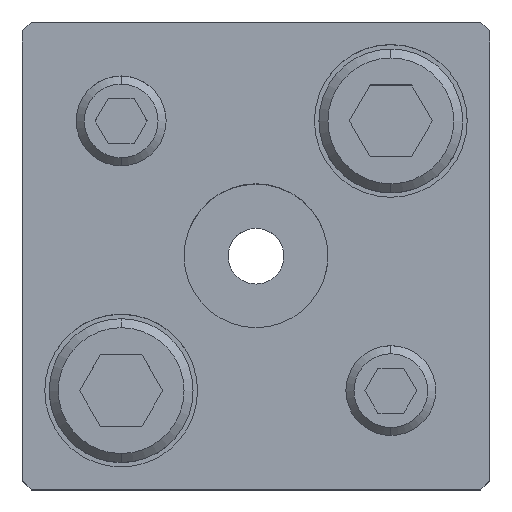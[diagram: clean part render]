
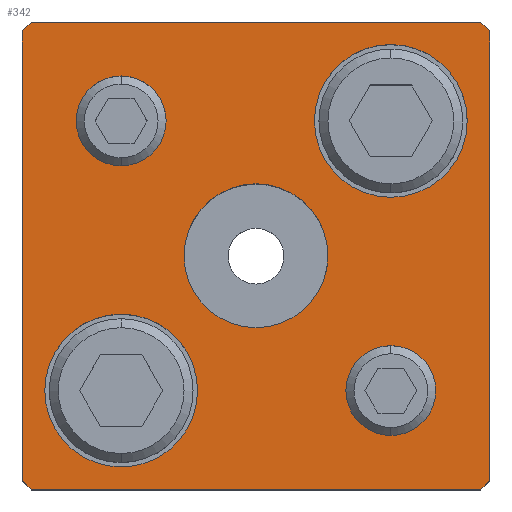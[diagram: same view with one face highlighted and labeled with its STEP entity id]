
A CAD part, top view. The second image highlights one B-rep face of the part: STEP entity #342.
In plain terms, the highlighted planar face has unit normal (0, 0, 1).
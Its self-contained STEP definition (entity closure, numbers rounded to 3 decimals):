
#167=PLANE('',#2883);
#246=FACE_BOUND('',#713,.T.);
#247=FACE_BOUND('',#714,.T.);
#248=FACE_BOUND('',#715,.T.);
#249=FACE_BOUND('',#716,.T.);
#250=FACE_BOUND('',#717,.T.);
#251=FACE_BOUND('',#718,.T.);
#342=ADVANCED_FACE('',(#246,#247,#248,#249,#250,#251),#167,.T.);
#713=EDGE_LOOP('',(#1569,#1570,#1571,#1572,#1573,#1574,#1575,#1576));
#714=EDGE_LOOP('',(#1577,#1578));
#715=EDGE_LOOP('',(#1579,#1580));
#716=EDGE_LOOP('',(#1581,#1582));
#717=EDGE_LOOP('',(#1583,#1584));
#718=EDGE_LOOP('',(#1585,#1586));
#898=LINE('',#4227,#1118);
#899=LINE('',#4230,#1119);
#900=LINE('',#4232,#1120);
#901=LINE('',#4234,#1121);
#902=LINE('',#4236,#1122);
#903=LINE('',#4238,#1123);
#904=LINE('',#4240,#1124);
#905=LINE('',#4242,#1125);
#1118=VECTOR('',#3401,1.);
#1119=VECTOR('',#3402,1.);
#1120=VECTOR('',#3403,1.);
#1121=VECTOR('',#3404,1.);
#1122=VECTOR('',#3405,1.);
#1123=VECTOR('',#3406,1.);
#1124=VECTOR('',#3407,1.);
#1125=VECTOR('',#3408,1.);
#1569=ORIENTED_EDGE('',*,*,#2390,.T.);
#1570=ORIENTED_EDGE('',*,*,#2391,.T.);
#1571=ORIENTED_EDGE('',*,*,#2392,.T.);
#1572=ORIENTED_EDGE('',*,*,#2393,.T.);
#1573=ORIENTED_EDGE('',*,*,#2394,.T.);
#1574=ORIENTED_EDGE('',*,*,#2395,.T.);
#1575=ORIENTED_EDGE('',*,*,#2396,.T.);
#1576=ORIENTED_EDGE('',*,*,#2397,.T.);
#1577=ORIENTED_EDGE('',*,*,#2398,.F.);
#1578=ORIENTED_EDGE('',*,*,#2399,.F.);
#1579=ORIENTED_EDGE('',*,*,#2400,.F.);
#1580=ORIENTED_EDGE('',*,*,#2401,.F.);
#1581=ORIENTED_EDGE('',*,*,#2376,.F.);
#1582=ORIENTED_EDGE('',*,*,#2372,.F.);
#1583=ORIENTED_EDGE('',*,*,#2370,.F.);
#1584=ORIENTED_EDGE('',*,*,#2366,.F.);
#1585=ORIENTED_EDGE('',*,*,#2402,.T.);
#1586=ORIENTED_EDGE('',*,*,#2403,.T.);
#2083=VERTEX_POINT('',#4178);
#2084=VERTEX_POINT('',#4179);
#2087=VERTEX_POINT('',#4191);
#2088=VERTEX_POINT('',#4192);
#2099=VERTEX_POINT('',#4228);
#2100=VERTEX_POINT('',#4229);
#2101=VERTEX_POINT('',#4231);
#2102=VERTEX_POINT('',#4233);
#2103=VERTEX_POINT('',#4235);
#2104=VERTEX_POINT('',#4237);
#2105=VERTEX_POINT('',#4239);
#2106=VERTEX_POINT('',#4241);
#2107=VERTEX_POINT('',#4244);
#2108=VERTEX_POINT('',#4245);
#2109=VERTEX_POINT('',#4248);
#2110=VERTEX_POINT('',#4249);
#2111=VERTEX_POINT('',#4252);
#2112=VERTEX_POINT('',#4253);
#2366=EDGE_CURVE('',#2083,#2084,#2655,.T.);
#2370=EDGE_CURVE('',#2084,#2083,#2657,.T.);
#2372=EDGE_CURVE('',#2087,#2088,#2659,.T.);
#2376=EDGE_CURVE('',#2088,#2087,#2661,.T.);
#2390=EDGE_CURVE('',#2099,#2100,#898,.T.);
#2391=EDGE_CURVE('',#2100,#2101,#899,.T.);
#2392=EDGE_CURVE('',#2101,#2102,#900,.T.);
#2393=EDGE_CURVE('',#2102,#2103,#901,.T.);
#2394=EDGE_CURVE('',#2103,#2104,#902,.T.);
#2395=EDGE_CURVE('',#2104,#2105,#903,.T.);
#2396=EDGE_CURVE('',#2105,#2106,#904,.T.);
#2397=EDGE_CURVE('',#2106,#2099,#905,.T.);
#2398=EDGE_CURVE('',#2107,#2108,#2671,.T.);
#2399=EDGE_CURVE('',#2108,#2107,#2672,.T.);
#2400=EDGE_CURVE('',#2109,#2110,#2673,.T.);
#2401=EDGE_CURVE('',#2110,#2109,#2674,.T.);
#2402=EDGE_CURVE('',#2111,#2112,#2675,.T.);
#2403=EDGE_CURVE('',#2112,#2111,#2676,.T.);
#2655=CIRCLE('',#2851,5.);
#2657=CIRCLE('',#2854,5.);
#2659=CIRCLE('',#2858,5.);
#2661=CIRCLE('',#2861,5.);
#2671=CIRCLE('',#2877,8.5);
#2672=CIRCLE('',#2878,8.5);
#2673=CIRCLE('',#2879,8.5);
#2674=CIRCLE('',#2880,8.5);
#2675=CIRCLE('',#2881,8.);
#2676=CIRCLE('',#2882,8.);
#2851=AXIS2_PLACEMENT_3D('',#4177,#3341,#3342);
#2854=AXIS2_PLACEMENT_3D('',#4186,#3349,#3350);
#2858=AXIS2_PLACEMENT_3D('',#4190,#3357,#3358);
#2861=AXIS2_PLACEMENT_3D('',#4199,#3365,#3366);
#2877=AXIS2_PLACEMENT_3D('',#4243,#3409,#3410);
#2878=AXIS2_PLACEMENT_3D('',#4246,#3411,#3412);
#2879=AXIS2_PLACEMENT_3D('',#4247,#3413,#3414);
#2880=AXIS2_PLACEMENT_3D('',#4250,#3415,#3416);
#2881=AXIS2_PLACEMENT_3D('',#4251,#3417,#3418);
#2882=AXIS2_PLACEMENT_3D('',#4254,#3419,#3420);
#2883=AXIS2_PLACEMENT_3D('',#4255,#3421,#3422);
#3341=DIRECTION('',(0.,0.,1.));
#3342=DIRECTION('',(-1.,0.,0.));
#3349=DIRECTION('',(0.,0.,1.));
#3350=DIRECTION('',(1.,0.,0.));
#3357=DIRECTION('',(0.,0.,1.));
#3358=DIRECTION('',(-1.,0.,0.));
#3365=DIRECTION('',(0.,0.,1.));
#3366=DIRECTION('',(1.,0.,0.));
#3401=DIRECTION('',(0.707,0.707,0.));
#3402=DIRECTION('',(0.,1.,0.));
#3403=DIRECTION('',(-0.707,0.707,0.));
#3404=DIRECTION('',(-1.,0.,0.));
#3405=DIRECTION('',(-0.707,-0.707,0.));
#3406=DIRECTION('',(0.,-1.,0.));
#3407=DIRECTION('',(0.707,-0.707,0.));
#3408=DIRECTION('',(1.,0.,0.));
#3409=DIRECTION('',(0.,0.,1.));
#3410=DIRECTION('',(1.,0.,0.));
#3411=DIRECTION('',(0.,0.,1.));
#3412=DIRECTION('',(-1.,0.,0.));
#3413=DIRECTION('',(0.,0.,1.));
#3414=DIRECTION('',(1.,0.,0.));
#3415=DIRECTION('',(0.,0.,1.));
#3416=DIRECTION('',(-1.,0.,0.));
#3417=DIRECTION('',(0.,0.,-1.));
#3418=DIRECTION('',(-1.,0.,0.));
#3419=DIRECTION('',(0.,0.,-1.));
#3420=DIRECTION('',(1.,0.,0.));
#3421=DIRECTION('',(0.,0.,1.));
#3422=DIRECTION('',(-1.,0.,0.));
#4177=CARTESIAN_POINT('',(15.,-15.,35.));
#4178=CARTESIAN_POINT('',(15.,-20.,35.));
#4179=CARTESIAN_POINT('',(15.,-10.,35.));
#4186=CARTESIAN_POINT('',(15.,-15.,35.));
#4190=CARTESIAN_POINT('',(-15.,15.,35.));
#4191=CARTESIAN_POINT('',(-15.,10.,35.));
#4192=CARTESIAN_POINT('',(-15.,20.,35.));
#4199=CARTESIAN_POINT('',(-15.,15.,35.));
#4227=CARTESIAN_POINT('',(25.,-26.,35.));
#4228=CARTESIAN_POINT('',(25.,-26.,35.));
#4229=CARTESIAN_POINT('',(26.,-25.,35.));
#4230=CARTESIAN_POINT('',(26.,25.,35.));
#4231=CARTESIAN_POINT('',(26.,25.,35.));
#4232=CARTESIAN_POINT('',(26.,25.,35.));
#4233=CARTESIAN_POINT('',(25.,26.,35.));
#4234=CARTESIAN_POINT('',(-25.,26.,35.));
#4235=CARTESIAN_POINT('',(-25.,26.,35.));
#4236=CARTESIAN_POINT('',(-25.,26.,35.));
#4237=CARTESIAN_POINT('',(-26.,25.,35.));
#4238=CARTESIAN_POINT('',(-26.,25.,35.));
#4239=CARTESIAN_POINT('',(-26.,-25.,35.));
#4240=CARTESIAN_POINT('',(-26.,-25.,35.));
#4241=CARTESIAN_POINT('',(-25.,-26.,35.));
#4242=CARTESIAN_POINT('',(-25.,-26.,35.));
#4243=CARTESIAN_POINT('',(15.,15.,35.));
#4244=CARTESIAN_POINT('',(15.,23.5,35.));
#4245=CARTESIAN_POINT('',(15.,6.5,35.));
#4246=CARTESIAN_POINT('',(15.,15.,35.));
#4247=CARTESIAN_POINT('',(-15.,-15.,35.));
#4248=CARTESIAN_POINT('',(-15.,-6.5,35.));
#4249=CARTESIAN_POINT('',(-15.,-23.5,35.));
#4250=CARTESIAN_POINT('',(-15.,-15.,35.));
#4251=CARTESIAN_POINT('',(0.,0.,35.));
#4252=CARTESIAN_POINT('',(0.,8.,35.));
#4253=CARTESIAN_POINT('',(0.,-8.,35.));
#4254=CARTESIAN_POINT('',(0.,0.,35.));
#4255=CARTESIAN_POINT('',(25.,-26.,35.));
